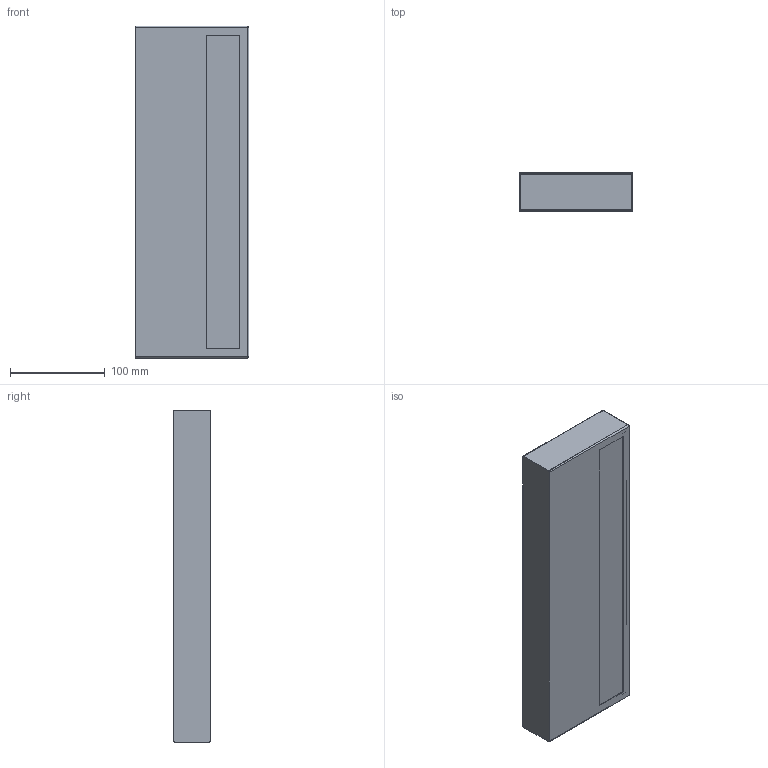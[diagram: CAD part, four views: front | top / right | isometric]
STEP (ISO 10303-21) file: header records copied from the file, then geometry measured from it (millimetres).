
FILE_DESCRIPTION (( 'STEP AP203' ), '1' );
FILE_NAME ('ALIAS 35.STEP', '2012-11-23T13:41:58', ( 'admin' ), ( '' ), 'SwSTEP 2.0', 'SolidWorks 2010', '' );
FILE_SCHEMA (( 'CONFIG_CONTROL_DESIGN' ));
Length unit declared in the file: millimetre
Products named in the file (1): ALIAS 35
Bounding box: 120 x 40 x 350 mm (x, y, z)
Volume: 129949.9 mm3; surface area: 241370.7 mm2
Topology: 1 solids, 2 shells, 50 faces, 114 edges, 68 vertices
Faces by surface type: plane 32, cylinder 14, bspline 4
Entity records: 1561 total; most frequent: CARTESIAN_POINT 429, ORIENTED_EDGE 220, DIRECTION 204, EDGE_CURVE 110, VECTOR 86, LINE 86, VERTEX_POINT 68, AXIS2_PLACEMENT_3D 59
